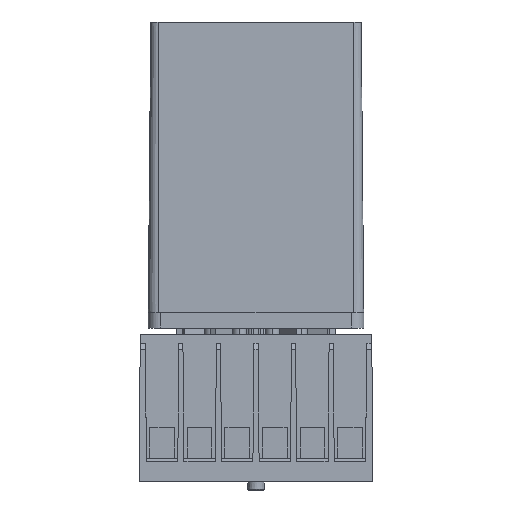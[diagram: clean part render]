
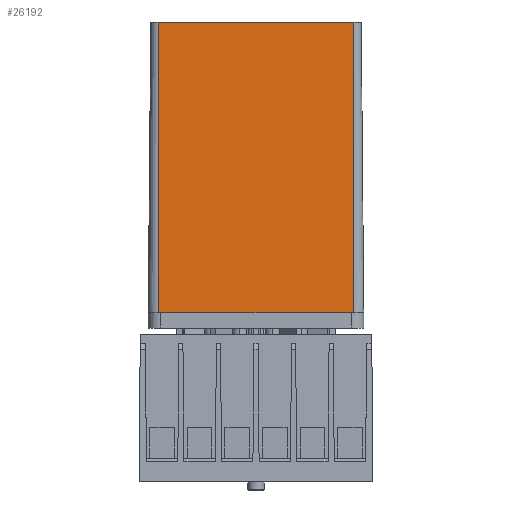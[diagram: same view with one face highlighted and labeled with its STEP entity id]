
A CAD part, front view. The second image highlights one B-rep face of the part: STEP entity #26192.
In plain terms, the highlighted planar face has unit normal (0, -1, 0.009).
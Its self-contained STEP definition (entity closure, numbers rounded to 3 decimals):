
#423 = CARTESIAN_POINT ( 'NONE',  ( 19., 20., 28.8 ) ) ;
#1269 = DIRECTION ( 'NONE',  ( 0., -0.009, -1. ) ) ;
#1324 = EDGE_CURVE ( 'NONE', #26871, #31220, #30708, .T. ) ;
#1451 = LINE ( 'NONE', #20359, #13620 ) ;
#2238 = DIRECTION ( 'NONE',  ( 0., -0.009, -1. ) ) ;
#3239 = ORIENTED_EDGE ( 'NONE', *, *, #20546, .T. ) ;
#3531 = DIRECTION ( 'NONE',  ( 0., -1., 0.009 ) ) ;
#5086 = EDGE_CURVE ( 'NONE', #24387, #10554, #18634, .T. ) ;
#5250 = VECTOR ( 'NONE', #2238, 1000. ) ;
#6602 = DIRECTION ( 'NONE',  ( 1., 0., 0. ) ) ;
#6656 = VERTEX_POINT ( 'NONE', #17417 ) ;
#8688 = DIRECTION ( 'NONE',  ( 0., -0.009, -1. ) ) ;
#9167 = VECTOR ( 'NONE', #15790, 1000. ) ;
#10554 = VERTEX_POINT ( 'NONE', #27645 ) ;
#10595 = FACE_OUTER_BOUND ( 'NONE', #39881, .T. ) ;
#10779 = ORIENTED_EDGE ( 'NONE', *, *, #20554, .T. ) ;
#10843 = ORIENTED_EDGE ( 'NONE', *, *, #5086, .F. ) ;
#12996 = CARTESIAN_POINT ( 'NONE',  ( 3.1, 20.412, 76. ) ) ;
#13094 = CARTESIAN_POINT ( 'NONE',  ( 3.1, 20., 28.8 ) ) ;
#13302 = PLANE ( 'NONE',  #16050 ) ;
#13607 = ORIENTED_EDGE ( 'NONE', *, *, #17392, .T. ) ;
#13620 = VECTOR ( 'NONE', #14118, 1000. ) ;
#14118 = DIRECTION ( 'NONE',  ( 1., 0., 0. ) ) ;
#15790 = DIRECTION ( 'NONE',  ( 1., 0., 0. ) ) ;
#16050 = AXIS2_PLACEMENT_3D ( 'NONE', #17076, #3531, #1269 ) ;
#16181 = VECTOR ( 'NONE', #8688, 1000. ) ;
#16242 = LINE ( 'NONE', #13094, #36093 ) ;
#17076 = CARTESIAN_POINT ( 'NONE',  ( 3.1, 20., 28.8 ) ) ;
#17132 = VERTEX_POINT ( 'NONE', #29971 ) ;
#17392 = EDGE_CURVE ( 'NONE', #31220, #17132, #16242, .T. ) ;
#17417 = CARTESIAN_POINT ( 'NONE',  ( 34.5, 20., 28.8 ) ) ;
#17455 = ORIENTED_EDGE ( 'NONE', *, *, #1324, .T. ) ;
#18634 = LINE ( 'NONE', #34358, #5250 ) ;
#19104 = CARTESIAN_POINT ( 'NONE',  ( 34.9, 20.412, 76. ) ) ;
#19324 = EDGE_CURVE ( 'NONE', #26871, #24387, #1451, .T. ) ;
#19978 = DIRECTION ( 'NONE',  ( 1., 0., 0. ) ) ;
#20359 = CARTESIAN_POINT ( 'NONE',  ( 3.1, 20.412, 76. ) ) ;
#20546 = EDGE_CURVE ( 'NONE', #6656, #10554, #28848, .T. ) ;
#20554 = EDGE_CURVE ( 'NONE', #17132, #6656, #25328, .T. ) ;
#21404 = CARTESIAN_POINT ( 'NONE',  ( 3.1, 20., 28.8 ) ) ;
#22856 = ORIENTED_EDGE ( 'NONE', *, *, #19324, .F. ) ;
#24387 = VERTEX_POINT ( 'NONE', #19104 ) ;
#24456 = VECTOR ( 'NONE', #6602, 1000. ) ;
#25328 = LINE ( 'NONE', #423, #24456 ) ;
#26192 = ADVANCED_FACE ( 'NONE', ( #10595 ), #13302, .T. ) ;
#26871 = VERTEX_POINT ( 'NONE', #12996 ) ;
#27094 = CARTESIAN_POINT ( 'NONE',  ( 3.1, 20., 28.8 ) ) ;
#27645 = CARTESIAN_POINT ( 'NONE',  ( 34.9, 20., 28.8 ) ) ;
#28848 = LINE ( 'NONE', #35263, #9167 ) ;
#29971 = CARTESIAN_POINT ( 'NONE',  ( 3.5, 20., 28.8 ) ) ;
#30708 = LINE ( 'NONE', #21404, #16181 ) ;
#31220 = VERTEX_POINT ( 'NONE', #27094 ) ;
#34358 = CARTESIAN_POINT ( 'NONE',  ( 34.9, 20., 28.8 ) ) ;
#35263 = CARTESIAN_POINT ( 'NONE',  ( 3.1, 20., 28.8 ) ) ;
#36093 = VECTOR ( 'NONE', #19978, 1000. ) ;
#39881 = EDGE_LOOP ( 'NONE', ( #13607, #10779, #3239, #10843, #22856, #17455 ) ) ;
